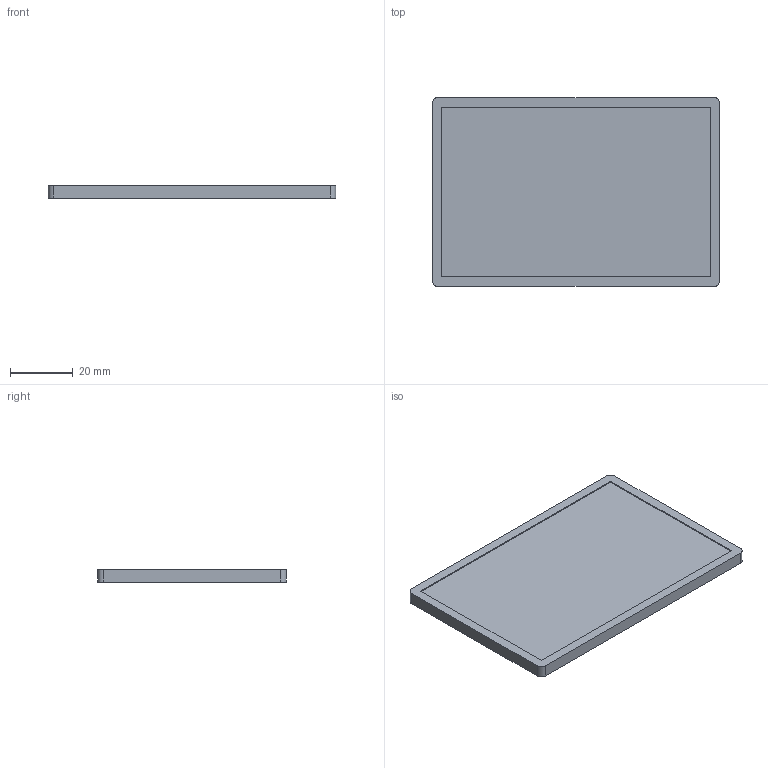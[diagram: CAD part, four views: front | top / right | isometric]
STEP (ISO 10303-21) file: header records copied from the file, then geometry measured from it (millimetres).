
FILE_DESCRIPTION(('Open CASCADE Model'),'2;1');
FILE_NAME('Open CASCADE Shape Model','2026-10-24T14:45:54',('Author'),( 'Open CASCADE'),'Open CASCADE STEP processor 7.7','Open CASCADE 7.7' ,'Unknown');
FILE_SCHEMA(('AUTOMOTIVE_DESIGN { 1 0 10303 214 1 1 1 1 }'));
Length unit declared in the file: millimetre
Products named in the file (1): Open CASCADE STEP translator 7.7 2
Bounding box: 92 x 60.38 x 4.1 mm (x, y, z)
Volume: 16865.6 mm3; surface area: 22003.8 mm2
Topology: 1 solids, 2 shells, 30 faces, 72 edges, 48 vertices
Faces by surface type: plane 26, cylinder 4
Entity records: 1800 total; most frequent: CARTESIAN_POINT 339, DIRECTION 262, LINE 180, VECTOR 180, ORIENTED_EDGE 144, PCURVE 144, DEFINITIONAL_REPRESENTATION 144, EDGE_CURVE 72
